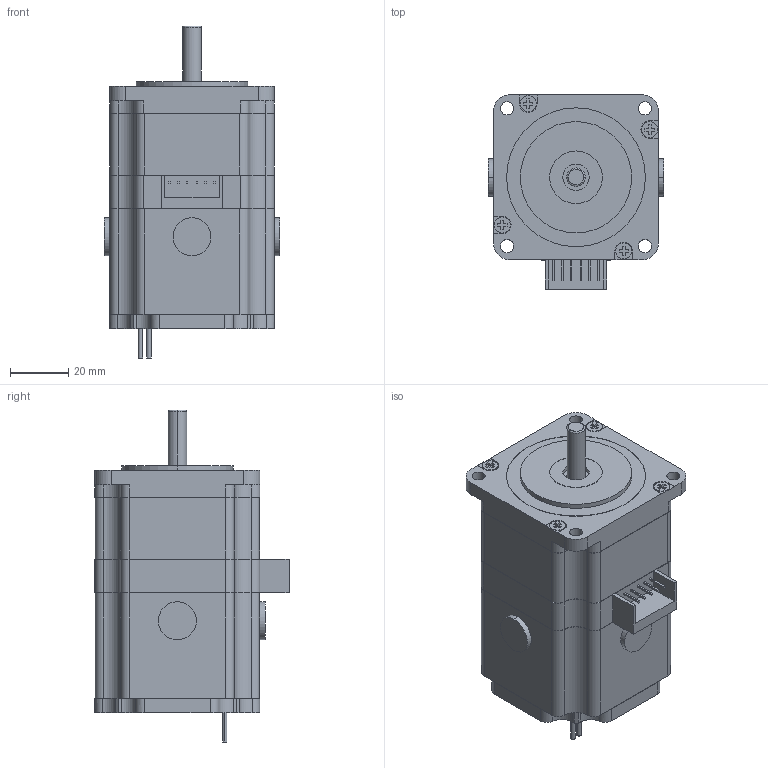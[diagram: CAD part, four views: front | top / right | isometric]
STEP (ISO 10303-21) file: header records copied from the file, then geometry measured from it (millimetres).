
FILE_DESCRIPTION (( 'STEP AP203' ), '1' );
FILE_NAME ('UB57D24-D30-642.STEP', '2020-06-30T07:13:08', ( '' ), ( '' ), 'SwSTEP 2.0', 'SolidWorks 2018', '' );
FILE_SCHEMA (( 'CONFIG_CONTROL_DESIGN' ));
Length unit declared in the file: millimetre
Products named in the file (1): UB57D24-D30-642
Bounding box: 60.2 x 66.4 x 113.6 mm (x, y, z)
Volume: 242040.1 mm3; surface area: 26755.2 mm2
Topology: 4 solids, 5 shells, 286 faces, 743 edges, 492 vertices
Faces by surface type: plane 171, cylinder 113, bspline 2
Entity records: 8890 total; most frequent: CARTESIAN_POINT 1558, DIRECTION 1547, ORIENTED_EDGE 1486, EDGE_CURVE 743, AXIS2_PLACEMENT_3D 521, VECTOR 505, LINE 505, VERTEX_POINT 492
